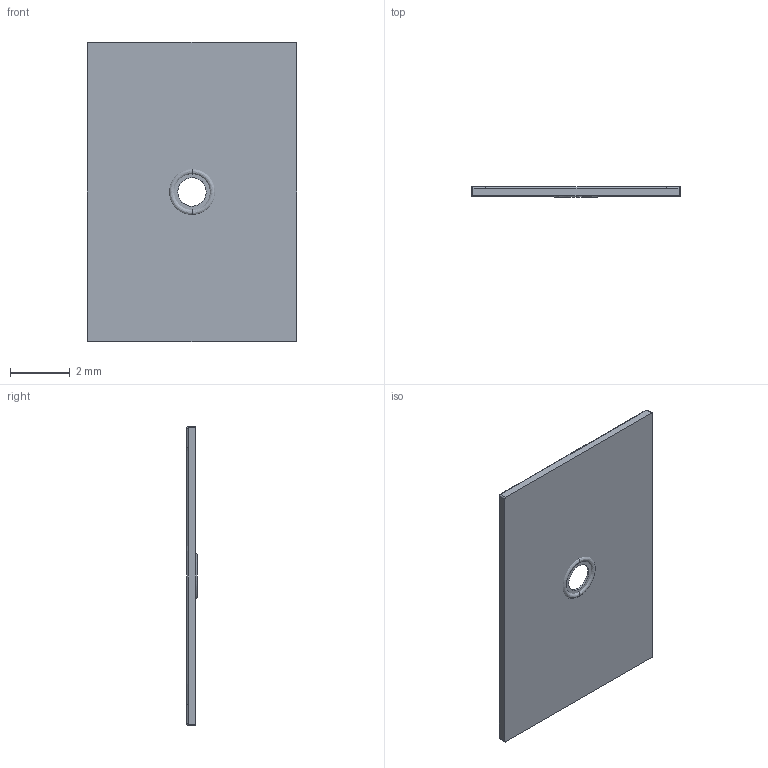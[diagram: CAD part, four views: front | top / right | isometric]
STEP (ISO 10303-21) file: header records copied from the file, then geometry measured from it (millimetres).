
FILE_DESCRIPTION(/* description */ (''),/* implementation_level */ '2;1');
FILE_NAME(/* name */ 'UNPD10007030',/* time_stamp */ '2018-12-10T15:23:52+01:00',/* author */ (''),/* organization */ (''),/* preprocessor_version */ 'ST-DEVELOPER v15',/* originating_system */ '',/* authorisation */ '');
FILE_SCHEMA (('AUTOMOTIVE_DESIGN'));
Length unit declared in the file: centimetre
Products named in the file (1): Document
Bounding box: 7 x 0.35 x 10 mm (x, y, z)
Surface area: 149.8 mm2 (no closed solid volume)
Topology: 0 solids, 1 shells, 42 faces, 100 edges, 52 vertices
Faces by surface type: bspline 36, plane 6
Entity records: 2511 total; most frequent: CARTESIAN_POINT 1990, ORIENTED_EDGE 180, EDGE_CURVE 92, VERTEX_POINT 52, EDGE_LOOP 44, ADVANCED_FACE 42, FACE_OUTER_BOUND 42, B_SPLINE_CURVE_WITH_KNOTS 20
